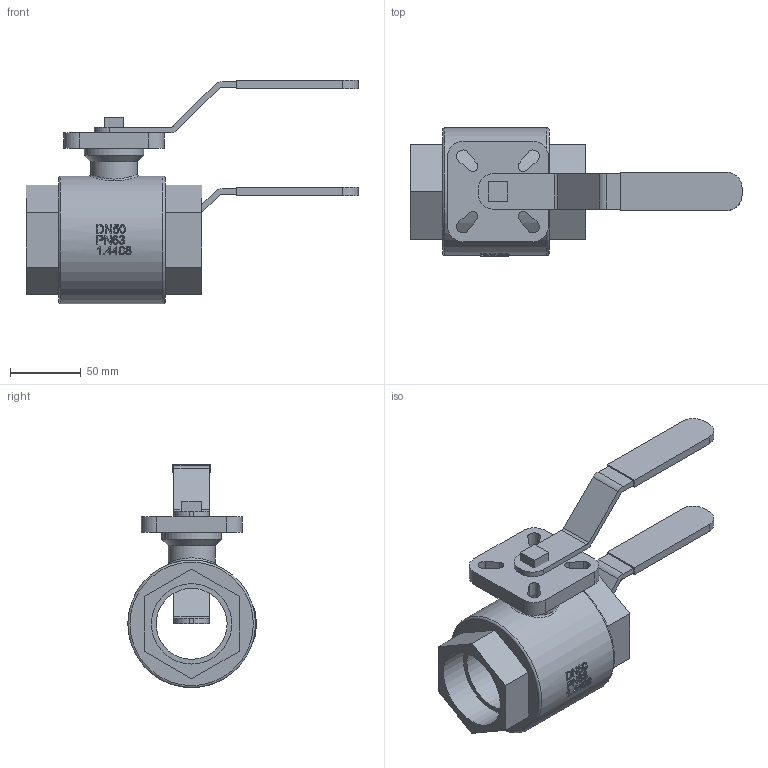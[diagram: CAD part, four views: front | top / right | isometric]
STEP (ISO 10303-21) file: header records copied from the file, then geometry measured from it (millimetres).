
FILE_DESCRIPTION( ( 'Unknown' ), '1' );
FILE_NAME( 'J:/Muud/ROOTSI BPS 3D vidinad/Kuulkraanid/Roostevaba kuulkraanid/Ball valve BPS 2411/Ball valve with hand lever BPS/STEP formaat/BPS 2411050 ball valve DN50.stp', 'Unknown', ( 'Unknown' ), ( 'Unknown' ), 'PSStep 10.1', 'Unknown', ' ' );
FILE_SCHEMA( ( 'AUTOMOTIVE_DESIGN { 1 0 10303 214 1 1 1 1 }' ) );
Length unit declared in the file: millimetre
Products named in the file (3): Assem1; BPS 2411050 ball valve DN50; Hand lever for ball valve DN40-50 BPS 2411
Bounding box: 234 x 90.5 x 157.5 mm (x, y, z)
Volume: 996165 mm3; surface area: 176858.9 mm2
Topology: 4 solids, 4 shells, 412 faces, 1046 edges, 696 vertices
Faces by surface type: plane 220, cylinder 104, bspline 82, torus 4, cone 2
Full cylindrical faces by diameter (mm): 3 x2, 33 x2, 42 x2, 50 x2, 56.656 x4, 90 x2
Entity records: 12961 total; most frequent: CARTESIAN_POINT 7128, ORIENTED_EDGE 968, DIRECTION 582, EDGE_CURVE 484, VERTEX_POINT 333, B_SPLINE_CURVE_WITH_KNOTS 289, EDGE_LOOP 265, AXIS2_PLACEMENT_3D 221
